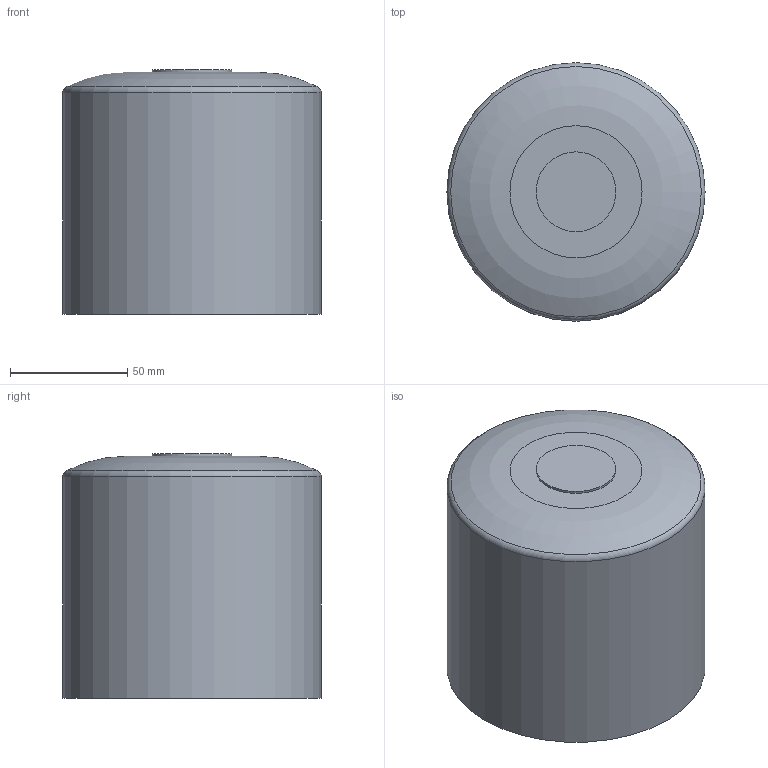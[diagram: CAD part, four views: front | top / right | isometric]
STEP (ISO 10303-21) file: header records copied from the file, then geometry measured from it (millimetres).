
FILE_DESCRIPTION(/* description */ ('Unknown'),/* implementation_level */ '2;1');
FILE_NAME(/* name */ 'CAP110B',/* time_stamp */ '2022-04-02T09:22:20+02:00',/* author */ ('Unknown'),/* organization */ ('Unknown'),/* preprocessor_version */ 'ST-DEVELOPER v18.1',/* originating_system */ 'Solid Edge',/* authorisation */ 'Unknown');
FILE_SCHEMA (('AUTOMOTIVE_DESIGN {1 0 10303 214 3 1 1}'));
Length unit declared in the file: millimetre
Products named in the file (1): CAP110B
Bounding box: 110 x 110 x 104 mm (x, y, z)
Volume: 275855.2 mm3; surface area: 79985.8 mm2
Topology: 1 solids, 1 shells, 11 faces, 20 edges, 13 vertices
Faces by surface type: plane 4, torus 4, cylinder 3
Full cylindrical faces by diameter (mm): 34 x1, 96.4 x1, 110 x1
Entity records: 244 total; most frequent: DIRECTION 44, CARTESIAN_POINT 32, AXIS2_PLACEMENT_3D 22, ORIENTED_EDGE 20, EDGE_LOOP 20, FACE_BOUND 20, ADVANCED_FACE 11, EDGE_CURVE 10
